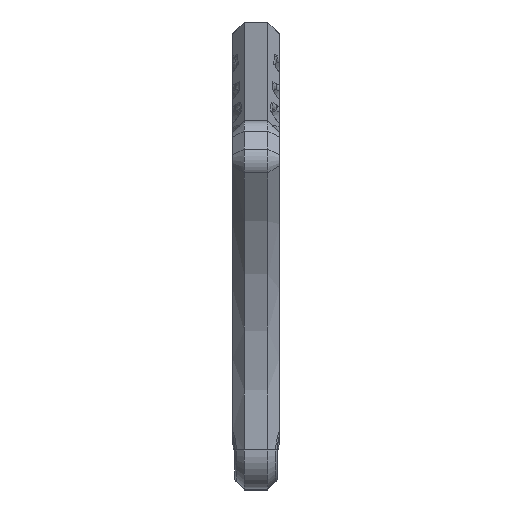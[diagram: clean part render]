
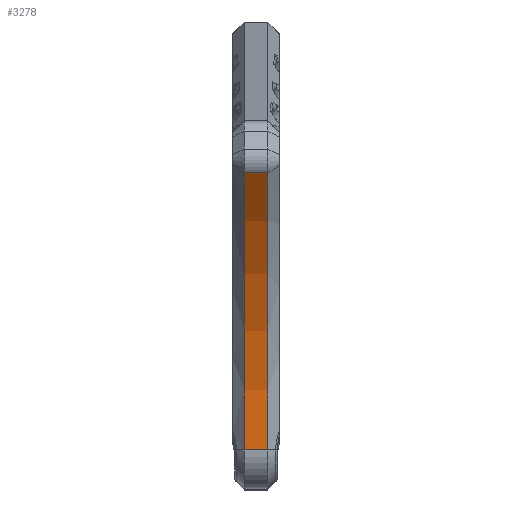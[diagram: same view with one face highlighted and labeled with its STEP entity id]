
A CAD part, top view. The second image highlights one B-rep face of the part: STEP entity #3278.
In plain terms, the highlighted cylindrical face has radius 39.658 mm (diameter 79.316 mm), a partial arc.
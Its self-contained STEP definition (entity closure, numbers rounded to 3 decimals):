
#43=CYLINDRICAL_SURFACE('',#3598,39.658);
#318=LINE('',#7299,#536);
#319=LINE('',#7302,#537);
#536=VECTOR('',#4384,10.);
#537=VECTOR('',#4389,10.);
#776=FACE_OUTER_BOUND('',#978,.T.);
#978=EDGE_LOOP('',(#2971,#2972,#2973,#2974));
#1056=CIRCLE('',#3392,39.658);
#1146=CIRCLE('',#3575,39.658);
#1388=VERTEX_POINT('',#5614);
#1390=VERTEX_POINT('',#5627);
#1510=VERTEX_POINT('',#6940);
#1558=VERTEX_POINT('',#7255);
#1724=EDGE_CURVE('',#1390,#1388,#1056,.T.);
#2024=EDGE_CURVE('',#1510,#1558,#1146,.T.);
#2047=EDGE_CURVE('',#1558,#1390,#318,.T.);
#2049=EDGE_CURVE('',#1388,#1510,#319,.T.);
#2971=ORIENTED_EDGE('',*,*,#2024,.F.);
#2972=ORIENTED_EDGE('',*,*,#2049,.F.);
#2973=ORIENTED_EDGE('',*,*,#1724,.F.);
#2974=ORIENTED_EDGE('',*,*,#2047,.F.);
#3278=ADVANCED_FACE('',(#776),#43,.F.);
#3392=AXIS2_PLACEMENT_3D('',#5629,#3812,#3813);
#3575=AXIS2_PLACEMENT_3D('',#7256,#4325,#4326);
#3598=AXIS2_PLACEMENT_3D('',#7301,#4387,#4388);
#3812=DIRECTION('center_axis',(-1.,0.,0.));
#3813=DIRECTION('ref_axis',(0.,-0.02,-1.));
#4325=DIRECTION('center_axis',(1.,0.,0.));
#4326=DIRECTION('ref_axis',(0.,-0.02,-1.));
#4384=DIRECTION('',(1.,0.,0.));
#4387=DIRECTION('center_axis',(1.,0.,0.));
#4388=DIRECTION('ref_axis',(0.,-0.02,-1.));
#4389=DIRECTION('',(-1.,0.,0.));
#5614=CARTESIAN_POINT('',(1.125,-9.924,-0.815));
#5627=CARTESIAN_POINT('',(1.125,16.606,8.651));
#5629=CARTESIAN_POINT('Origin',(1.125,-9.117,38.835));
#6940=CARTESIAN_POINT('',(-1.125,-9.924,-0.815));
#7255=CARTESIAN_POINT('',(-1.125,16.606,8.651));
#7256=CARTESIAN_POINT('Origin',(-1.125,-9.117,38.835));
#7299=CARTESIAN_POINT('',(0.,16.606,8.651));
#7301=CARTESIAN_POINT('Origin',(0.,-9.117,38.835));
#7302=CARTESIAN_POINT('',(0.,-9.924,-0.815));
